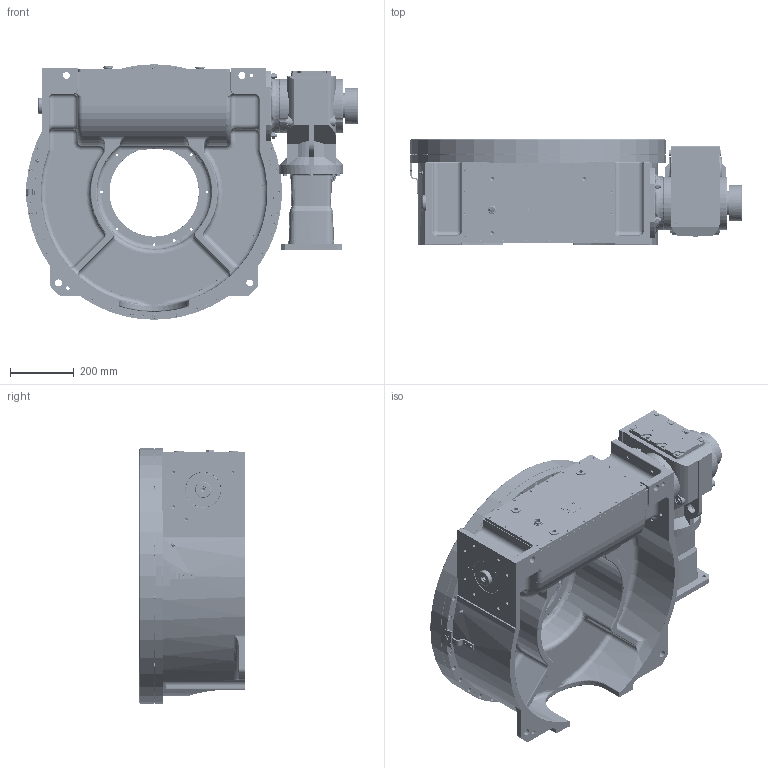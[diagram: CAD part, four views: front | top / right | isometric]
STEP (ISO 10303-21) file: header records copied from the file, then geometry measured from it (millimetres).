
FILE_DESCRIPTION(('CATIA V5 STEP Exchange'),'2;1');
FILE_NAME('M:\MOTION\Motion 2\cad\TMF3000\TMF3000_KH77AQA190_1SL90.stp','2014-07-23T12:22:52+00:00',('none'),('none'),'CATIA Version 5 Release 16 (IN-10)','CATIA V5 STEP AP203','none');
FILE_SCHEMA(('CONFIG_CONTROL_DESIGN'));
Length unit declared in the file: millimetre
Products named in the file (1): TMF3000_KH77AQA190_1SL90
Bounding box: 1039 x 330 x 800 mm (x, y, z)
Volume: 17296731.4 mm3; surface area: 6150897.3 mm2
Topology: 6 solids, 5148 shells, 5828 faces, 32699 edges, 31766 vertices
Faces by surface type: plane 1952, cylinder 1738, bspline 1131, cone 662, torus 256, sphere 89
Entity records: 392413 total; most frequent: CARTESIAN_POINT 174726, ORIENTED_EDGE 34083, EDGE_CURVE 32354, VERTEX_POINT 31766, DIRECTION 28304, B_SPLINE_CURVE_WITH_KNOTS 13444, AXIS2_PLACEMENT_3D 11922, VECTOR 11686
